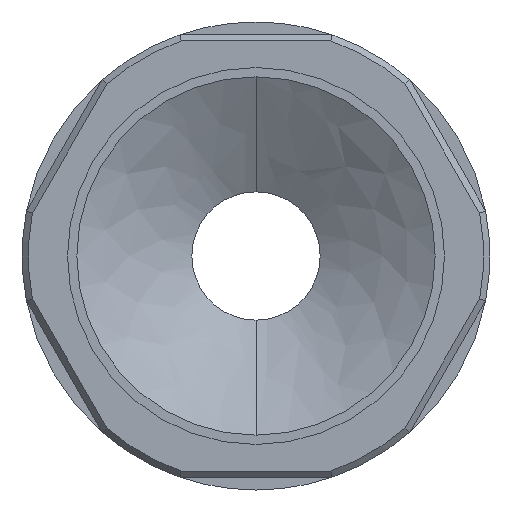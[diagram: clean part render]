
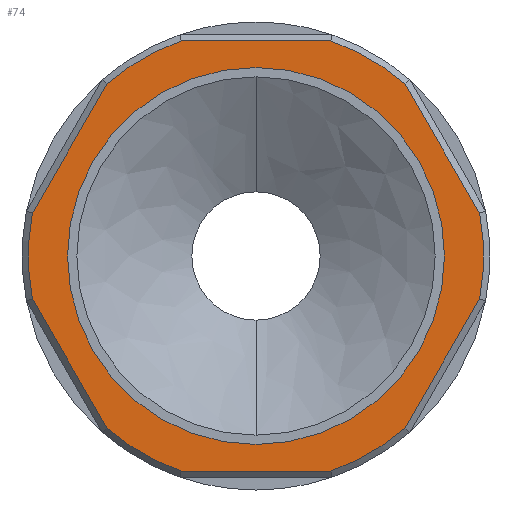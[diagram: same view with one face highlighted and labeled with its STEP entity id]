
A CAD part, front view. The second image highlights one B-rep face of the part: STEP entity #74.
In plain terms, the highlighted planar face has unit normal (0, -1, 0).
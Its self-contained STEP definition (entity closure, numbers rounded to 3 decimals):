
#74=ADVANCED_FACE('',(#450,#451),#449,.F.);
#449=PLANE('',#962);
#450=FACE_OUTER_BOUND('',#963,.T.);
#451=FACE_BOUND('',#964,.T.);
#959=CARTESIAN_POINT('',(-43.981,0.,-40.8));
#960=DIRECTION('',(0.,1.,0.));
#961=DIRECTION('',(0.,0.,1.));
#962=AXIS2_PLACEMENT_3D('',#959,#960,#961);
#963=EDGE_LOOP('',(#1280,#1281,#1282,#1283,#1284,#1285,#1286,#1287,#1288,#1289,#1290,#1291));
#964=EDGE_LOOP('',(#1292,#1293));
#1280=ORIENTED_EDGE('',*,*,#1470,.T.);
#1281=ORIENTED_EDGE('',*,*,#1467,.T.);
#1282=ORIENTED_EDGE('',*,*,#1566,.T.);
#1283=ORIENTED_EDGE('',*,*,#1567,.T.);
#1284=ORIENTED_EDGE('',*,*,#1568,.T.);
#1285=ORIENTED_EDGE('',*,*,#1569,.T.);
#1286=ORIENTED_EDGE('',*,*,#1570,.T.);
#1287=ORIENTED_EDGE('',*,*,#1542,.T.);
#1288=ORIENTED_EDGE('',*,*,#1482,.T.);
#1289=ORIENTED_EDGE('',*,*,#1479,.T.);
#1290=ORIENTED_EDGE('',*,*,#1476,.T.);
#1291=ORIENTED_EDGE('',*,*,#1473,.T.);
#1292=ORIENTED_EDGE('',*,*,#1571,.F.);
#1293=ORIENTED_EDGE('',*,*,#1572,.F.);
#1467=EDGE_CURVE('',#1620,#1635,#1642,.T.);
#1470=EDGE_CURVE('',#1648,#1620,#1662,.T.);
#1473=EDGE_CURVE('',#1668,#1648,#1682,.T.);
#1476=EDGE_CURVE('',#1688,#1668,#1702,.T.);
#1479=EDGE_CURVE('',#1708,#1688,#1722,.T.);
#1482=EDGE_CURVE('',#1728,#1708,#1742,.T.);
#1542=EDGE_CURVE('',#2134,#1728,#2147,.T.);
#1566=EDGE_CURVE('',#1635,#2310,#2311,.T.);
#1567=EDGE_CURVE('',#2310,#2317,#2318,.T.);
#1568=EDGE_CURVE('',#2317,#2324,#2325,.T.);
#1569=EDGE_CURVE('',#2324,#2331,#2332,.T.);
#1570=EDGE_CURVE('',#2331,#2134,#2338,.T.);
#1571=EDGE_CURVE('',#2344,#2345,#2346,.T.);
#1572=EDGE_CURVE('',#2345,#2344,#2352,.T.);
#1620=VERTEX_POINT('',#2650);
#1635=VERTEX_POINT('',#2661);
#1642=CIRCLE('',#2669,36.);
#1648=VERTEX_POINT('',#2670);
#1662=LINE('',#2679,#2680);
#1668=VERTEX_POINT('',#2682);
#1682=CIRCLE('',#2695,36.);
#1688=VERTEX_POINT('',#2696);
#1702=LINE('',#2705,#2706);
#1708=VERTEX_POINT('',#2708);
#1722=CIRCLE('',#2721,36.);
#1728=VERTEX_POINT('',#2722);
#1742=LINE('',#2731,#2732);
#2134=VERTEX_POINT('',#2976);
#2147=CIRCLE('',#2988,36.);
#2310=VERTEX_POINT('',#3094);
#2311=LINE('',#3095,#3096);
#2317=VERTEX_POINT('',#3098);
#2318=CIRCLE('',#3102,36.);
#2324=VERTEX_POINT('',#3103);
#2325=LINE('',#3104,#3105);
#2331=VERTEX_POINT('',#3107);
#2332=CIRCLE('',#3111,36.);
#2338=LINE('',#3112,#3113);
#2344=VERTEX_POINT('',#3115);
#2345=VERTEX_POINT('',#3116);
#2346=CIRCLE('',#3120,29.807);
#2352=CIRCLE('',#3124,29.807);
#2650=CARTESIAN_POINT('',(23.529,0.,27.247));
#2661=CARTESIAN_POINT('',(11.832,0.,34.));
#2666=CARTESIAN_POINT('',(0.,0.,0.));
#2667=DIRECTION('',(0.,-1.,0.));
#2668=DIRECTION('',(0.,0.,-1.));
#2669=AXIS2_PLACEMENT_3D('',#2666,#2667,#2668);
#2670=CARTESIAN_POINT('',(35.361,0.,6.753));
#2679=CARTESIAN_POINT('',(35.361,0.,6.753));
#2680=VECTOR('',#2681,23.664);
#2681=DIRECTION('',(-0.5,0.,0.866));
#2682=CARTESIAN_POINT('',(35.361,0.,-6.753));
#2692=CARTESIAN_POINT('',(0.,0.,0.));
#2693=DIRECTION('',(0.,-1.,0.));
#2694=DIRECTION('',(0.,0.,-1.));
#2695=AXIS2_PLACEMENT_3D('',#2692,#2693,#2694);
#2696=CARTESIAN_POINT('',(23.529,0.,-27.247));
#2705=CARTESIAN_POINT('',(23.529,0.,-27.247));
#2706=VECTOR('',#2707,23.664);
#2707=DIRECTION('',(0.5,0.,0.866));
#2708=CARTESIAN_POINT('',(11.832,0.,-34.));
#2718=CARTESIAN_POINT('',(0.,0.,0.));
#2719=DIRECTION('',(0.,-1.,0.));
#2720=DIRECTION('',(0.,0.,-1.));
#2721=AXIS2_PLACEMENT_3D('',#2718,#2719,#2720);
#2722=CARTESIAN_POINT('',(-11.832,0.,-34.));
#2731=CARTESIAN_POINT('',(-11.832,0.,-34.));
#2732=VECTOR('',#2733,23.664);
#2733=DIRECTION('',(1.,0.,0.));
#2976=CARTESIAN_POINT('',(-23.529,0.,-27.247));
#2985=CARTESIAN_POINT('',(0.,0.,0.));
#2986=DIRECTION('',(0.,-1.,0.));
#2987=DIRECTION('',(0.,0.,-1.));
#2988=AXIS2_PLACEMENT_3D('',#2985,#2986,#2987);
#3094=CARTESIAN_POINT('',(-11.832,0.,34.));
#3095=CARTESIAN_POINT('',(11.832,0.,34.));
#3096=VECTOR('',#3097,23.664);
#3097=DIRECTION('',(-1.,0.,0.));
#3098=CARTESIAN_POINT('',(-23.529,0.,27.247));
#3099=CARTESIAN_POINT('',(0.,0.,0.));
#3100=DIRECTION('',(0.,-1.,0.));
#3101=DIRECTION('',(0.,0.,-1.));
#3102=AXIS2_PLACEMENT_3D('',#3099,#3100,#3101);
#3103=CARTESIAN_POINT('',(-35.361,0.,6.753));
#3104=CARTESIAN_POINT('',(-23.529,0.,27.247));
#3105=VECTOR('',#3106,23.664);
#3106=DIRECTION('',(-0.5,0.,-0.866));
#3107=CARTESIAN_POINT('',(-35.361,0.,-6.753));
#3108=CARTESIAN_POINT('',(0.,0.,0.));
#3109=DIRECTION('',(0.,-1.,0.));
#3110=DIRECTION('',(0.,0.,-1.));
#3111=AXIS2_PLACEMENT_3D('',#3108,#3109,#3110);
#3112=CARTESIAN_POINT('',(-35.361,0.,-6.753));
#3113=VECTOR('',#3114,23.664);
#3114=DIRECTION('',(0.5,0.,-0.866));
#3115=CARTESIAN_POINT('',(0.,0.,-29.807));
#3116=CARTESIAN_POINT('',(0.,0.,29.807));
#3117=CARTESIAN_POINT('',(0.,0.,0.));
#3118=DIRECTION('',(0.,-1.,0.));
#3119=DIRECTION('',(0.,0.,1.));
#3120=AXIS2_PLACEMENT_3D('',#3117,#3118,#3119);
#3121=CARTESIAN_POINT('',(0.,0.,0.));
#3122=DIRECTION('',(0.,-1.,0.));
#3123=DIRECTION('',(0.,0.,1.));
#3124=AXIS2_PLACEMENT_3D('',#3121,#3122,#3123);
